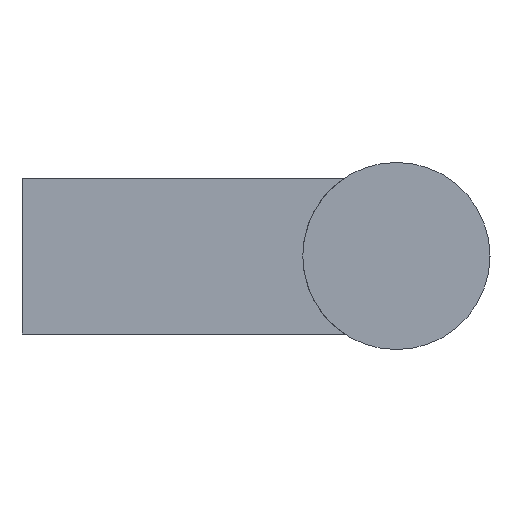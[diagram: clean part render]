
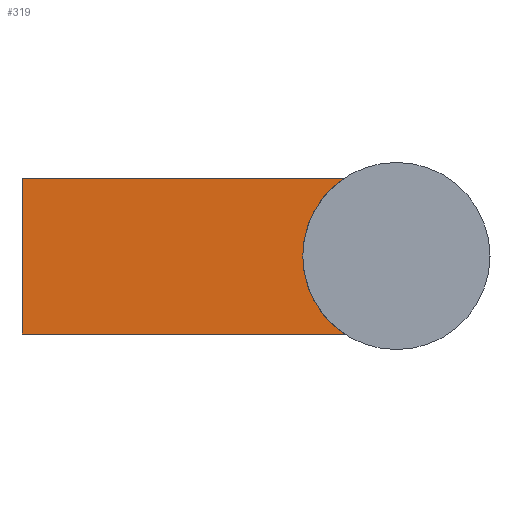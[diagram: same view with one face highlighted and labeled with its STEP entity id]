
A CAD part, left-side view. The second image highlights one B-rep face of the part: STEP entity #319.
In plain terms, the highlighted planar face has unit normal (-1, 0, 0).
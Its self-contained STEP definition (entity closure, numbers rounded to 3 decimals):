
#151 = VERTEX_POINT( '', #371 );
#177 = EDGE_CURVE( '', #225, #151, #399, .T. );
#225 = VERTEX_POINT( '', #453 );
#227 = VERTEX_POINT( '', #455 );
#237 = EDGE_CURVE( '', #313, #225, #467, .T. );
#251 = EDGE_CURVE( '', #151, #227, #481, .T. );
#253 = VERTEX_POINT( '', #483 );
#281 = EDGE_CURVE( '', #227, #253, #514, .T. );
#313 = VERTEX_POINT( '', #550 );
#315 = EDGE_CURVE( '', #313, #253, #552, .T. );
#319 = ADVANCED_FACE( '', ( #557 ), #558, .T. );
#371 = CARTESIAN_POINT( '', ( -11.999, -20.683, 5. ) );
#399 = LINE( '', #645, #646 );
#453 = CARTESIAN_POINT( '', ( -11.999, 0., 5. ) );
#455 = CARTESIAN_POINT( '', ( -11.999, -18., 0. ) );
#467 = LINE( '', #733, #734 );
#481 = CIRCLE( '', #759, 6. );
#483 = CARTESIAN_POINT( '', ( -11.999, -20.683, -5. ) );
#514 = CIRCLE( '', #805, 6. );
#550 = CARTESIAN_POINT( '', ( -11.999, 0., -5. ) );
#552 = LINE( '', #856, #857 );
#557 = FACE_OUTER_BOUND( '', #862, .T. );
#558 = PLANE( '', #863 );
#645 = CARTESIAN_POINT( '', ( -11.999, 0., 5. ) );
#646 = VECTOR( '', #923, 1. );
#733 = CARTESIAN_POINT( '', ( -11.999, 0., -5. ) );
#734 = VECTOR( '', #1014, 1. );
#759 = AXIS2_PLACEMENT_3D( '', #1025, #1026, #1027 );
#805 = AXIS2_PLACEMENT_3D( '', #1062, #1063, #1064 );
#856 = CARTESIAN_POINT( '', ( -11.999, 0., -5. ) );
#857 = VECTOR( '', #1110, 1. );
#862 = EDGE_LOOP( '', ( #1121, #1122, #1123, #1124, #1125 ) );
#863 = AXIS2_PLACEMENT_3D( '', #1126, #1127, #1128 );
#923 = DIRECTION( '', ( 0., -1., 0. ) );
#1014 = DIRECTION( '', ( 0., 0., 1. ) );
#1025 = CARTESIAN_POINT( '', ( -11.999, -24., 0. ) );
#1026 = DIRECTION( '', ( -1., 0., 0. ) );
#1027 = DIRECTION( '', ( 0., -1., 0. ) );
#1062 = CARTESIAN_POINT( '', ( -11.999, -24., 0. ) );
#1063 = DIRECTION( '', ( -1., 0., 0. ) );
#1064 = DIRECTION( '', ( 0., -1., 0. ) );
#1110 = DIRECTION( '', ( 0., -1., 0. ) );
#1121 = ORIENTED_EDGE( '', *, *, #251, .F. );
#1122 = ORIENTED_EDGE( '', *, *, #177, .F. );
#1123 = ORIENTED_EDGE( '', *, *, #237, .F. );
#1124 = ORIENTED_EDGE( '', *, *, #315, .T. );
#1125 = ORIENTED_EDGE( '', *, *, #281, .F. );
#1126 = CARTESIAN_POINT( '', ( -11.999, 0., -5. ) );
#1127 = DIRECTION( '', ( -1., 0., 0. ) );
#1128 = DIRECTION( '', ( 0., 0., -1. ) );
